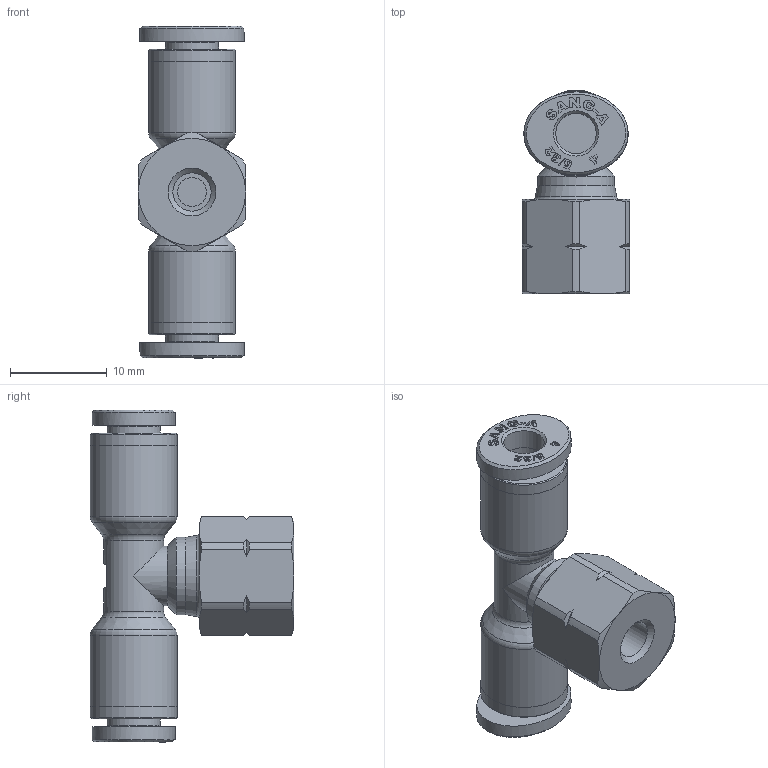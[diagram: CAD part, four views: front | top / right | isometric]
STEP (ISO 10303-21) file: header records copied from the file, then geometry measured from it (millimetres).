
FILE_DESCRIPTION((''),'2;1');
FILE_NAME('C:\Users\user0117\Desktop\김진일\G-FITTING INCH\5-32\PDF\G-FITTING INCH (STEP)\GPTF 5_32-U10U.stp','2020-04-21T18:54:29',('user0117'),(''),'Autodesk Inventor 2013','Autodesk Inventor 2013','');
FILE_SCHEMA(('AUTOMOTIVE_DESIGN { 1 0 10303 214 1 1 1 1 }'));
Length unit declared in the file: millimetre
Products named in the file (6): GPTF 5_32-U10U; GPLF BODY 5_32-U10U(BRASS); GPT BODY-04(PLASTIC); G-COLLAR 5-32L; COLLAR G04L; SLEEVE G04
Assembly tree (6 placements, depth 3):
  GPTF 5_32-U10U
    GPLF BODY 5_32-U10U(BRASS)
    GPT BODY-04(PLASTIC)
    G-COLLAR 5-32L  x2
      COLLAR G04L
      SLEEVE G04
Bounding box: 11.11 x 21.1 x 34.4 mm (x, y, z)
Volume: 2620.1 mm3; surface area: 2912.8 mm2
Topology: 6 solids, 6 shells, 399 faces, 1028 edges, 678 vertices
Faces by surface type: plane 210, bspline 118, cone 35, cylinder 31, torus 5
Full cylindrical faces by diameter (mm): 3 x1, 3.967 x1, 4 x1, 4.2 x6, 5.5 x2, 6.2 x2, 7.2 x1, 8 x1, 9 x4
Entity records: 7600 total; most frequent: CARTESIAN_POINT 2305, ORIENTED_EDGE 1130, DIRECTION 869, EDGE_CURVE 565, VERTEX_POINT 387, VECTOR 313, LINE 313, EDGE_LOOP 296
